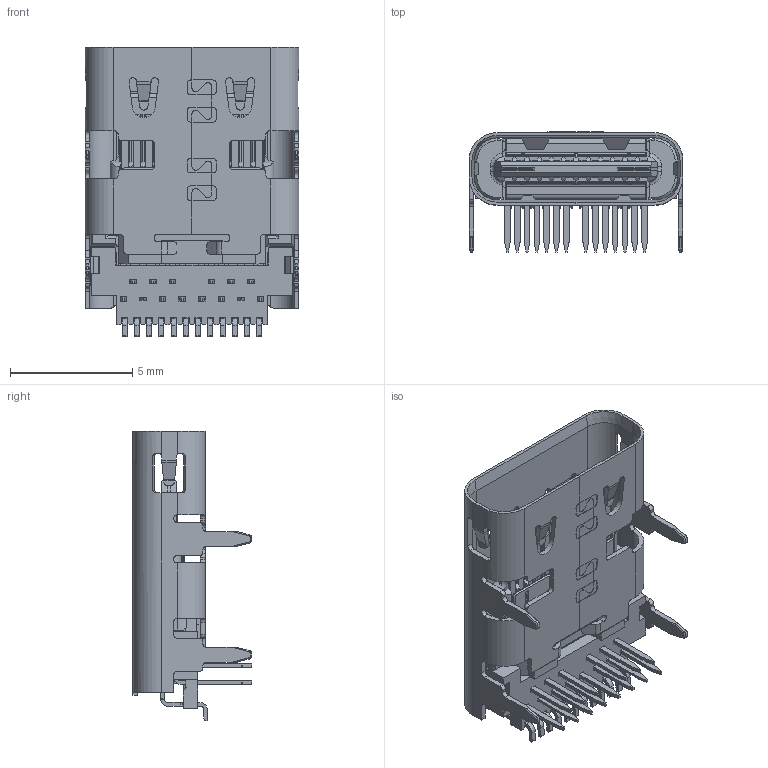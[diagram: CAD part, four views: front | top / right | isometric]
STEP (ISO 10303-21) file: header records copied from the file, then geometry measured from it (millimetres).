
FILE_DESCRIPTION (( 'STEP AP203' ), '1' );
FILE_NAME ('U5142-24PNT11.33L.stp', '2026-08-27T00:56:38', ( '' ), ( '' ), 'SwSTEP 2.0', 'SolidWorks 2020', '' );
FILE_SCHEMA (( 'CONFIG_CONTROL_DESIGN' ));
Length unit declared in the file: millimetre
Products named in the file (38): ASM0017_ASM^ASM0016_ASM_ASM0013_ASM_U5142-24PNT11.33L(2)_U5142-24PNT11.33L.stp.stp; U5142-24PNT11.33L(2)^U5142-24PNT11.33L.stp.stp; ASM0013_ASM^U5142-24PNT11.33L(2)_U5142-24PNT11.33L.stp.stp; PRT0061^ASM0019_ASM_ASM0018_ASM_ASM0013_ASM_U5142-24PNT11.33L(2)_U5142-24PNT11.33L.stp.stp; PRT0065^ASM0013_ASM_U5142-24PNT11.33L(2)_U5142-24PNT11.33L.stp.stp; ASM0014_ASM^ASM0013_ASM_U5142-24PNT11.33L(2)_U5142-24PNT11.33L.stp.stp; PRT0062^ASM0019_ASM_ASM0018_ASM_ASM0013_ASM_U5142-24PNT11.33L(2)_U5142-24PNT11.33L.stp.stp; PRT0048^ASM0017_ASM_ASM0016_ASM_ASM0013_ASM_U5142-24PNT11.33L(2)_U5142-24PNT11.33L.stp.stp; PRT0043^ASM0015_ASM_ASM0014_ASM_ASM0013_ASM_U5142-24PNT11.33L(2)_U5142-24PNT11.33L.stp.stp; PRT0064^ASM0018_ASM_ASM0013_ASM_U5142-24PNT11.33L(2)_U5142-24PNT11.33L.stp.stp; U5142-24PNT11.33L.stp.stp; PRT0051^ASM0017_ASM_ASM0016_ASM_ASM0013_ASM_U5142-24PNT11.33L(2)_U5142-24PNT11.33L.stp.stp; ASM0016_ASM^ASM0013_ASM_U5142-24PNT11.33L(2)_U5142-24PNT11.33L.stp.stp; PRT0057^ASM0019_ASM_ASM0018_ASM_ASM0013_ASM_U5142-24PNT11.33L(2)_U5142-24PNT11.33L.stp.stp; PRT0045^ASM0016_ASM_ASM0013_ASM_U5142-24PNT11.33L(2)_U5142-24PNT11.33L.stp.stp; ASM0019_ASM^ASM0018_ASM_ASM0013_ASM_U5142-24PNT11.33L(2)_U5142-24PNT11.33L.stp.stp; PRT0063^ASM0019_ASM_ASM0018_ASM_ASM0013_ASM_U5142-24PNT11.33L(2)_U5142-24PNT11.33L.stp.stp; PRT0046^ASM0017_ASM_ASM0016_ASM_ASM0013_ASM_U5142-24PNT11.33L(2)_U5142-24PNT11.33L.stp.stp; PRT0041^ASM0015_ASM_ASM0014_ASM_ASM0013_ASM_U5142-24PNT11.33L(2)_U5142-24PNT11.33L.stp.stp; PRT0059^ASM0019_ASM_ASM0018_ASM_ASM0013_ASM_U5142-24PNT11.33L(2)_U5142-24PNT11.33L.stp.stp; PRT0049^ASM0017_ASM_ASM0016_ASM_ASM0013_ASM_U5142-24PNT11.33L(2)_U5142-24PNT11.33L.stp.stp; ASM0015_ASM^ASM0014_ASM_ASM0013_ASM_U5142-24PNT11.33L(2)_U5142-24PNT11.33L.stp.stp; PRT0042^ASM0015_ASM_ASM0014_ASM_ASM0013_ASM_U5142-24PNT11.33L(2)_U5142-24PNT11.33L.stp.stp; PRT0058^ASM0019_ASM_ASM0018_ASM_ASM0013_ASM_U5142-24PNT11.33L(2)_U5142-24PNT11.33L.stp.stp; ASM0018_ASM^ASM0013_ASM_U5142-24PNT11.33L(2)_U5142-24PNT11.33L.stp.stp; PRT0050^ASM0017_ASM_ASM0016_ASM_ASM0013_ASM_U5142-24PNT11.33L(2)_U5142-24PNT11.33L.stp.stp; PRT0047^ASM0017_ASM_ASM0016_ASM_ASM0013_ASM_U5142-24PNT11.33L(2)_U5142-24PNT11.33L.stp.stp; PRT0055^ASM0019_ASM_ASM0018_ASM_ASM0013_ASM_U5142-24PNT11.33L(2)_U5142-24PNT11.33L.stp.stp; PRT0056^ASM0019_ASM_ASM0018_ASM_ASM0013_ASM_U5142-24PNT11.33L(2)_U5142-24PNT11.33L.stp.stp; U5142-24PNT11.33L; PRT0040^ASM0014_ASM_ASM0013_ASM_U5142-24PNT11.33L(2)_U5142-24PNT11.33L.stp.stp; PRT0060^ASM0019_ASM_ASM0018_ASM_ASM0013_ASM_U5142-24PNT11.33L(2)_U5142-24PNT11.33L.stp.stp; U5142-24PNT11.33L.stp; PRT0052^ASM0019_ASM_ASM0018_ASM_ASM0013_ASM_U5142-24PNT11.33L(2)_U5142-24PNT11.33L.stp.stp; PRT0054^ASM0019_ASM_ASM0018_ASM_ASM0013_ASM_U5142-24PNT11.33L(2)_U5142-24PNT11.33L.stp.stp; PRT0044^ASM0013_ASM_U5142-24PNT11.33L(2)_U5142-24PNT11.33L.stp.stp; PRT0053^ASM0019_ASM_ASM0018_ASM_ASM0013_ASM_U5142-24PNT11.33L(2)_U5142-24PNT11.33L.stp.stp; SHELL_FOR_SMT__L___B_____PCB_1_^ASM0013_ASM_U5142-24PNT11.33L(2)_U5142-24PNT11.33L.stp.stp
Assembly tree (44 placements, depth 8):
  U5142-24PNT11.33L
    U5142-24PNT11.33L.stp
      U5142-24PNT11.33L.stp.stp
        U5142-24PNT11.33L(2)^U5142-24PNT11.33L.stp.stp
          ASM0013_ASM^U5142-24PNT11.33L(2)_U5142-24PNT11.33L.stp.stp
            ASM0014_ASM^ASM0013_ASM_U5142-24PNT11.33L(2)_U5142-24PNT11.33L.stp.stp
              ASM0015_ASM^ASM0014_ASM_ASM0013_ASM_U5142-24PNT11.33L(2)_U5142-24PNT11.33L.stp.stp
                PRT0041^ASM0015_ASM_ASM0014_ASM_ASM0013_ASM_U5142-24PNT11.33L(2)_U5142-24PNT11.33L.stp.stp
                PRT0042^ASM0015_ASM_ASM0014_ASM_ASM0013_ASM_U5142-24PNT11.33L(2)_U5142-24PNT11.33L.stp.stp
                PRT0043^ASM0015_ASM_ASM0014_ASM_ASM0013_ASM_U5142-24PNT11.33L(2)_U5142-24PNT11.33L.stp.stp
              PRT0040^ASM0014_ASM_ASM0013_ASM_U5142-24PNT11.33L(2)_U5142-24PNT11.33L.stp.stp
            ASM0016_ASM^ASM0013_ASM_U5142-24PNT11.33L(2)_U5142-24PNT11.33L.stp.stp
              ASM0017_ASM^ASM0016_ASM_ASM0013_ASM_U5142-24PNT11.33L(2)_U5142-24PNT11.33L.stp.stp
                PRT0046^ASM0017_ASM_ASM0016_ASM_ASM0013_ASM_U5142-24PNT11.33L(2)_U5142-24PNT11.33L.stp.stp  x3
                PRT0047^ASM0017_ASM_ASM0016_ASM_ASM0013_ASM_U5142-24PNT11.33L(2)_U5142-24PNT11.33L.stp.stp  x2
                PRT0048^ASM0017_ASM_ASM0016_ASM_ASM0013_ASM_U5142-24PNT11.33L(2)_U5142-24PNT11.33L.stp.stp  x2
                PRT0049^ASM0017_ASM_ASM0016_ASM_ASM0013_ASM_U5142-24PNT11.33L(2)_U5142-24PNT11.33L.stp.stp  x2
                PRT0050^ASM0017_ASM_ASM0016_ASM_ASM0013_ASM_U5142-24PNT11.33L(2)_U5142-24PNT11.33L.stp.stp  x2
                PRT0051^ASM0017_ASM_ASM0016_ASM_ASM0013_ASM_U5142-24PNT11.33L(2)_U5142-24PNT11.33L.stp.stp
              PRT0045^ASM0016_ASM_ASM0013_ASM_U5142-24PNT11.33L(2)_U5142-24PNT11.33L.stp.stp
            ASM0018_ASM^ASM0013_ASM_U5142-24PNT11.33L(2)_U5142-24PNT11.33L.stp.stp
              ASM0019_ASM^ASM0018_ASM_ASM0013_ASM_U5142-24PNT11.33L(2)_U5142-24PNT11.33L.stp.stp
                PRT0052^ASM0019_ASM_ASM0018_ASM_ASM0013_ASM_U5142-24PNT11.33L(2)_U5142-24PNT11.33L.stp.stp
                PRT0053^ASM0019_ASM_ASM0018_ASM_ASM0013_ASM_U5142-24PNT11.33L(2)_U5142-24PNT11.33L.stp.stp
                PRT0054^ASM0019_ASM_ASM0018_ASM_ASM0013_ASM_U5142-24PNT11.33L(2)_U5142-24PNT11.33L.stp.stp
                PRT0055^ASM0019_ASM_ASM0018_ASM_ASM0013_ASM_U5142-24PNT11.33L(2)_U5142-24PNT11.33L.stp.stp
                PRT0056^ASM0019_ASM_ASM0018_ASM_ASM0013_ASM_U5142-24PNT11.33L(2)_U5142-24PNT11.33L.stp.stp
                PRT0057^ASM0019_ASM_ASM0018_ASM_ASM0013_ASM_U5142-24PNT11.33L(2)_U5142-24PNT11.33L.stp.stp
                PRT0058^ASM0019_ASM_ASM0018_ASM_ASM0013_ASM_U5142-24PNT11.33L(2)_U5142-24PNT11.33L.stp.stp
                PRT0059^ASM0019_ASM_ASM0018_ASM_ASM0013_ASM_U5142-24PNT11.33L(2)_U5142-24PNT11.33L.stp.stp
                PRT0060^ASM0019_ASM_ASM0018_ASM_ASM0013_ASM_U5142-24PNT11.33L(2)_U5142-24PNT11.33L.stp.stp
                PRT0061^ASM0019_ASM_ASM0018_ASM_ASM0013_ASM_U5142-24PNT11.33L(2)_U5142-24PNT11.33L.stp.stp
                PRT0062^ASM0019_ASM_ASM0018_ASM_ASM0013_ASM_U5142-24PNT11.33L(2)_U5142-24PNT11.33L.stp.stp
                PRT0063^ASM0019_ASM_ASM0018_ASM_ASM0013_ASM_U5142-24PNT11.33L(2)_U5142-24PNT11.33L.stp.stp
              PRT0064^ASM0018_ASM_ASM0013_ASM_U5142-24PNT11.33L(2)_U5142-24PNT11.33L.stp.stp
            SHELL_FOR_SMT__L___B_____PCB_1_^ASM0013_ASM_U5142-24PNT11.33L(2)_U5142-24PNT11.33L.stp.stp
            PRT0044^ASM0013_ASM_U5142-24PNT11.33L(2)_U5142-24PNT11.33L.stp.stp  x2
            PRT0065^ASM0013_ASM_U5142-24PNT11.33L(2)_U5142-24PNT11.33L.stp.stp
Bounding box: 8.74 x 4.89 x 11.83 mm (x, y, z)
Volume: 120 mm3; surface area: 1161.8 mm2
Topology: 34 solids, 34 shells, 3002 faces, 8129 edges, 5176 vertices
Faces by surface type: plane 2157, cylinder 722, bspline 76, cone 43, torus 4
Entity records: 84944 total; most frequent: CARTESIAN_POINT 16926, ORIENTED_EDGE 13682, DIRECTION 12735, EDGE_CURVE 6841, LINE 5487, VECTOR 5487, VERTEX_POINT 4368, AXIS2_PLACEMENT_3D 3624
